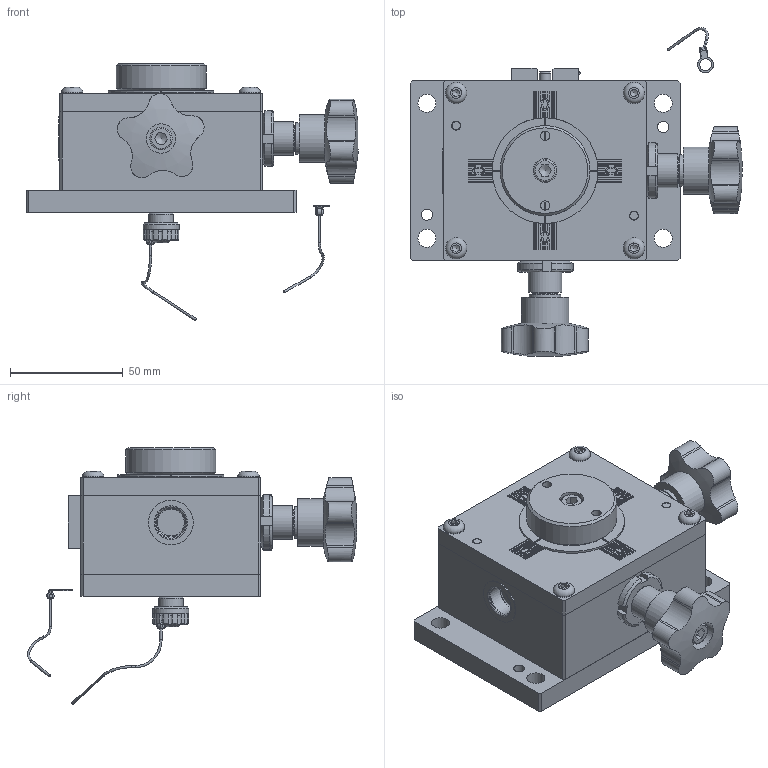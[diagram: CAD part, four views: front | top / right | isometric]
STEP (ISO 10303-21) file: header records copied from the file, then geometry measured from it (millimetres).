
FILE_DESCRIPTION(/* description */ (''),/* implementation_level */ '2;1');
FILE_NAME(/* name */ 'C:\Local Work Area\Progetti\AP\CALIBRI\146.00 Posizionatore\146.00\146.00-DX-L.stp',/* time_stamp */ '2020-02-20T15:00:06+01:00',/* author */ ('CAD5'),/* organization */ (''),/* preprocessor_version */ 'ST-DEVELOPER v17.2',/* originating_system */ 'Autodesk Inventor 2019',/* authorisation */ '');
FILE_SCHEMA (('AUTOMOTIVE_DESIGN { 1 0 10303 214 3 1 1 }'));
Length unit declared in the file: millimetre
Products named in the file (34): 146.00-DX-L; 146.03; 146.01; 146.07; 146.08; 146.02; 146.00_002 Ass manopola-01; 146.09; UNI 5931 - M 6 x  30; Manopola mecanoplastica 12010250; 146.10; UNI 5933 - M4 x 20; UNI 5923 - M6 x 1 x 8; B12.5 UNI8773; GHIERA M15x1 KM2; UNI 5931 - M5 x 0,8 x 16; ISO 2338 - 5 m6 x 20 - A; Copia di ISO 7380 - M5 x 16; ISO 2338 - 5 m6 x 12 - A; 146.06; UNI 5927 - M5 x 6; 146.00_001 Attrezzatura; 146.04; 146.05; UNI 5931 - M 6 x  20; 146.00 Ass spina; ISO 8735 - 8 x 35 - A; VOLANTINO ZIGRINATO - 130 10 100; catenella; catenella-1; catenella-2; UNI ISO 7380 - M5 x 20; TAPPO_001; ISO 8734 - Ø4 x 16 - A (AP)
Assembly tree (44 placements, depth 4):
  146.00-DX-L
    146.03
    146.01
    146.07
    146.08
    146.02
    146.00_002 Ass manopola-01  x2
      146.09
      UNI 5931 - M 6 x  30
      Manopola mecanoplastica 12010250
      146.10
      UNI 5933 - M4 x 20
      UNI 5923 - M6 x 1 x 8
      B12.5 UNI8773
    GHIERA M15x1 KM2  x2
    UNI 5931 - M5 x 0,8 x 16  x4
    ISO 2338 - 5 m6 x 20 - A  x2
    Copia di ISO 7380 - M5 x 16  x4
    ISO 2338 - 5 m6 x 12 - A
    146.06
    UNI 5927 - M5 x 6
    146.00_001 Attrezzatura
      146.04
      146.05
      UNI 5931 - M 6 x  20
    146.00 Ass spina
      ISO 8735 - 8 x 35 - A
      VOLANTINO ZIGRINATO - 130 10 100
      catenella
        catenella-1
        catenella-2
      UNI ISO 7380 - M5 x 20
    TAPPO_001
    ISO 8734 - Ø4 x 16 - A (AP)  x2
Bounding box: 147.51 x 146.22 x 114.1 mm (x, y, z)
Volume: 409203.9 mm3; surface area: 141136.9 mm2
Topology: 49 solids, 49 shells, 1138 faces, 2954 edges, 2014 vertices
Faces by surface type: plane 700, cylinder 228, cone 100, bspline 56, torus 53, sphere 1
Full cylindrical faces by diameter (mm): 1 x6, 3.242 x2, 4 x8, 4.1 x2, 4.134 x14, 4.135 x1, 4.917 x5, 5 x25, 5.2 x2, 5.3 x1, 5.333 x1, 6 x7, 6.1 x1, 6.4 x4, 6.5 x4, 7.64 x2, 8 x15, 8.5 x4, 9 x4, 9.5 x5, 10 x3, 10.5 x1, 11 x1, 11.5 x6, 12 x5, 12.9 x1, 13 x2, 13.867 x1, 13.9 x1, 13.917 x3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
Entity records: 30696 total; most frequent: CARTESIAN_POINT 6688, ORIENTED_EDGE 4664, DIRECTION 4571, EDGE_CURVE 2332, VERTEX_POINT 1604, AXIS2_PLACEMENT_3D 1562, LINE 1447, VECTOR 1447
